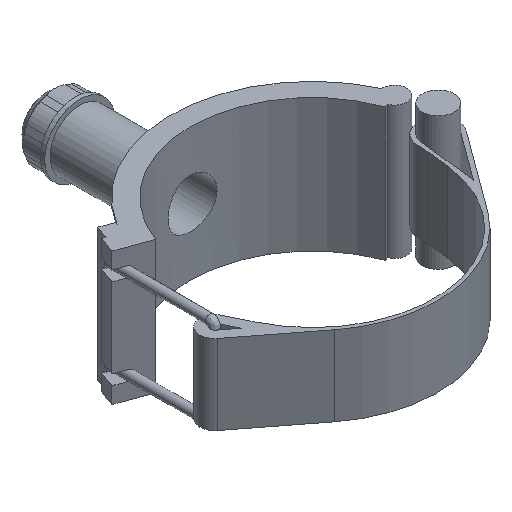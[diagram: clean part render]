
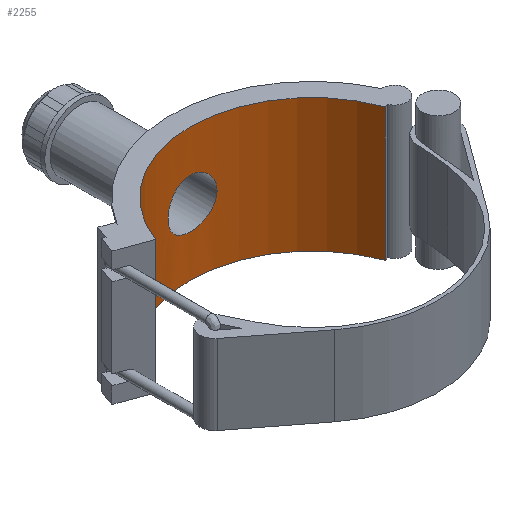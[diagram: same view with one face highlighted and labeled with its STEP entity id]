
A CAD part, isometric view. The second image highlights one B-rep face of the part: STEP entity #2255.
In plain terms, the highlighted cylindrical face has radius 161.7 mm (diameter 323.4 mm), a partial arc.
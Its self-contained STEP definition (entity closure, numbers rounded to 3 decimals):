
#49=FACE_BOUND('',#388,.T.);
#243=FACE_OUTER_BOUND('',#387,.T.);
#387=EDGE_LOOP('',(#2084,#2085,#2086,#2087));
#388=EDGE_LOOP('',(#2088,#2089));
#467=CIRCLE('',#2449,161.7);
#472=CIRCLE('',#2455,161.7);
#497=B_SPLINE_CURVE_WITH_KNOTS('',3,(#3246,#3247,#3248,#3249,#3250,#3251,
#3252,#3253,#3254,#3255,#3256,#3257,#3258,#3259,#3260,#3261,#3262,#3263,
#3264,#3265,#3266,#3267,#3268,#3269,#3270,#3271,#3272,#3273,#3274,#3275,
#3276,#3277,#3278,#3279,#3280,#3281,#3282,#3283,#3284,#3285,#3286,#3287,
#3288,#3289,#3290,#3291,#3292,#3293,#3294,#3295),.UNSPECIFIED.,.F.,.F.,
(4,2,2,2,2,2,2,2,2,2,2,2,2,2,2,2,2,2,2,2,2,2,2,2,4),(0.,0.614,
1.227,1.841,2.455,3.068,3.682,
4.296,4.909,5.523,6.136,6.75,
7.364,7.977,8.591,9.205,9.818,
10.432,11.046,11.659,12.273,12.887,
13.5,14.114,14.727),.UNSPECIFIED.);
#498=B_SPLINE_CURVE_WITH_KNOTS('',3,(#3296,#3297,#3298,#3299,#3300,#3301,
#3302,#3303,#3304,#3305,#3306,#3307,#3308,#3309,#3310,#3311,#3312,#3313),
 .UNSPECIFIED.,.F.,.F.,(4,2,2,2,2,2,2,2,4),(14.727,15.341,
15.955,16.568,17.182,17.796,18.409,
19.023,19.637),.UNSPECIFIED.);
#635=LINE('',#3884,#822);
#708=LINE('',#4115,#895);
#822=VECTOR('',#2911,10.);
#895=VECTOR('',#3104,10.);
#921=VERTEX_POINT('',#3243);
#922=VERTEX_POINT('',#3245);
#1044=VERTEX_POINT('',#3881);
#1045=VERTEX_POINT('',#3883);
#1076=VERTEX_POINT('',#4049);
#1081=VERTEX_POINT('',#4061);
#1129=EDGE_CURVE('',#922,#921,#497,.T.);
#1130=EDGE_CURVE('',#921,#922,#498,.T.);
#1312=EDGE_CURVE('',#1045,#1044,#635,.T.);
#1371=EDGE_CURVE('',#1045,#1076,#467,.T.);
#1378=EDGE_CURVE('',#1081,#1044,#472,.T.);
#1404=EDGE_CURVE('',#1081,#1076,#708,.T.);
#2084=ORIENTED_EDGE('',*,*,#1312,.T.);
#2085=ORIENTED_EDGE('',*,*,#1378,.F.);
#2086=ORIENTED_EDGE('',*,*,#1404,.T.);
#2087=ORIENTED_EDGE('',*,*,#1371,.F.);
#2088=ORIENTED_EDGE('',*,*,#1129,.T.);
#2089=ORIENTED_EDGE('',*,*,#1130,.T.);
#2130=CYLINDRICAL_SURFACE('',#2514,161.7);
#2255=ADVANCED_FACE('',(#243,#49),#2130,.F.);
#2449=AXIS2_PLACEMENT_3D('',#4050,#3021,#3022);
#2455=AXIS2_PLACEMENT_3D('',#4063,#3035,#3036);
#2514=AXIS2_PLACEMENT_3D('',#4495,#3180,#3181);
#2911=DIRECTION('',(0.,0.,-1.));
#3021=DIRECTION('center_axis',(0.,0.,-1.));
#3022=DIRECTION('ref_axis',(-1.,0.,0.));
#3035=DIRECTION('center_axis',(0.,0.,1.));
#3036=DIRECTION('ref_axis',(-1.,0.,0.));
#3104=DIRECTION('',(0.,0.,1.));
#3180=DIRECTION('center_axis',(0.,0.,1.));
#3181=DIRECTION('ref_axis',(-1.,0.,0.));
#3243=CARTESIAN_POINT('',(0.,161.7,-32.486));
#3245=CARTESIAN_POINT('',(-32.486,158.403,0.));
#3246=CARTESIAN_POINT('Ctrl Pts',(-32.486,158.403,0.));
#3247=CARTESIAN_POINT('Ctrl Pts',(-32.486,158.403,2.046));
#3248=CARTESIAN_POINT('Ctrl Pts',(-32.289,158.444,4.159));
#3249=CARTESIAN_POINT('Ctrl Pts',(-31.464,158.61,8.36));
#3250=CARTESIAN_POINT('Ctrl Pts',(-30.836,158.735,10.447));
#3251=CARTESIAN_POINT('Ctrl Pts',(-29.177,159.048,14.447));
#3252=CARTESIAN_POINT('Ctrl Pts',(-28.144,159.236,16.363));
#3253=CARTESIAN_POINT('Ctrl Pts',(-25.761,159.639,19.906));
#3254=CARTESIAN_POINT('Ctrl Pts',(-24.41,159.854,21.532));
#3255=CARTESIAN_POINT('Ctrl Pts',(-21.532,160.267,24.41));
#3256=CARTESIAN_POINT('Ctrl Pts',(-19.906,160.48,25.761));
#3257=CARTESIAN_POINT('Ctrl Pts',(-16.364,160.88,28.144));
#3258=CARTESIAN_POINT('Ctrl Pts',(-14.447,161.066,29.177));
#3259=CARTESIAN_POINT('Ctrl Pts',(-10.447,161.375,30.836));
#3260=CARTESIAN_POINT('Ctrl Pts',(-8.36,161.497,31.464));
#3261=CARTESIAN_POINT('Ctrl Pts',(-4.159,161.66,32.289));
#3262=CARTESIAN_POINT('Ctrl Pts',(-2.045,161.7,32.486));
#3263=CARTESIAN_POINT('Ctrl Pts',(2.045,161.7,32.486));
#3264=CARTESIAN_POINT('Ctrl Pts',(4.159,161.66,32.289));
#3265=CARTESIAN_POINT('Ctrl Pts',(8.36,161.497,31.464));
#3266=CARTESIAN_POINT('Ctrl Pts',(10.447,161.375,30.836));
#3267=CARTESIAN_POINT('Ctrl Pts',(14.447,161.066,29.177));
#3268=CARTESIAN_POINT('Ctrl Pts',(16.364,160.88,28.144));
#3269=CARTESIAN_POINT('Ctrl Pts',(19.906,160.48,25.761));
#3270=CARTESIAN_POINT('Ctrl Pts',(21.532,160.267,24.41));
#3271=CARTESIAN_POINT('Ctrl Pts',(24.41,159.854,21.532));
#3272=CARTESIAN_POINT('Ctrl Pts',(25.761,159.639,19.906));
#3273=CARTESIAN_POINT('Ctrl Pts',(28.144,159.236,16.363));
#3274=CARTESIAN_POINT('Ctrl Pts',(29.177,159.048,14.447));
#3275=CARTESIAN_POINT('Ctrl Pts',(30.836,158.735,10.447));
#3276=CARTESIAN_POINT('Ctrl Pts',(31.464,158.61,8.36));
#3277=CARTESIAN_POINT('Ctrl Pts',(32.289,158.444,4.159));
#3278=CARTESIAN_POINT('Ctrl Pts',(32.486,158.403,2.046));
#3279=CARTESIAN_POINT('Ctrl Pts',(32.486,158.403,-2.046));
#3280=CARTESIAN_POINT('Ctrl Pts',(32.289,158.444,-4.159));
#3281=CARTESIAN_POINT('Ctrl Pts',(31.464,158.61,-8.36));
#3282=CARTESIAN_POINT('Ctrl Pts',(30.836,158.735,-10.447));
#3283=CARTESIAN_POINT('Ctrl Pts',(29.177,159.048,-14.447));
#3284=CARTESIAN_POINT('Ctrl Pts',(28.144,159.236,-16.363));
#3285=CARTESIAN_POINT('Ctrl Pts',(25.761,159.639,-19.906));
#3286=CARTESIAN_POINT('Ctrl Pts',(24.41,159.854,-21.532));
#3287=CARTESIAN_POINT('Ctrl Pts',(21.532,160.267,-24.41));
#3288=CARTESIAN_POINT('Ctrl Pts',(19.906,160.48,-25.761));
#3289=CARTESIAN_POINT('Ctrl Pts',(16.364,160.88,-28.144));
#3290=CARTESIAN_POINT('Ctrl Pts',(14.447,161.066,-29.177));
#3291=CARTESIAN_POINT('Ctrl Pts',(10.447,161.375,-30.836));
#3292=CARTESIAN_POINT('Ctrl Pts',(8.36,161.497,-31.464));
#3293=CARTESIAN_POINT('Ctrl Pts',(4.159,161.66,-32.289));
#3294=CARTESIAN_POINT('Ctrl Pts',(2.045,161.7,-32.486));
#3295=CARTESIAN_POINT('Ctrl Pts',(0.,161.7,-32.486));
#3296=CARTESIAN_POINT('Ctrl Pts',(0.,161.7,-32.486));
#3297=CARTESIAN_POINT('Ctrl Pts',(-2.045,161.7,-32.486));
#3298=CARTESIAN_POINT('Ctrl Pts',(-4.159,161.66,-32.289));
#3299=CARTESIAN_POINT('Ctrl Pts',(-8.36,161.497,-31.464));
#3300=CARTESIAN_POINT('Ctrl Pts',(-10.447,161.375,-30.836));
#3301=CARTESIAN_POINT('Ctrl Pts',(-14.447,161.066,-29.177));
#3302=CARTESIAN_POINT('Ctrl Pts',(-16.364,160.88,-28.144));
#3303=CARTESIAN_POINT('Ctrl Pts',(-19.906,160.48,-25.761));
#3304=CARTESIAN_POINT('Ctrl Pts',(-21.532,160.267,-24.41));
#3305=CARTESIAN_POINT('Ctrl Pts',(-24.41,159.854,-21.532));
#3306=CARTESIAN_POINT('Ctrl Pts',(-25.761,159.639,-19.906));
#3307=CARTESIAN_POINT('Ctrl Pts',(-28.144,159.236,-16.363));
#3308=CARTESIAN_POINT('Ctrl Pts',(-29.177,159.048,-14.447));
#3309=CARTESIAN_POINT('Ctrl Pts',(-30.836,158.735,-10.447));
#3310=CARTESIAN_POINT('Ctrl Pts',(-31.464,158.61,-8.36));
#3311=CARTESIAN_POINT('Ctrl Pts',(-32.289,158.444,-4.159));
#3312=CARTESIAN_POINT('Ctrl Pts',(-32.486,158.403,-2.046));
#3313=CARTESIAN_POINT('Ctrl Pts',(-32.486,158.403,0.));
#3881=CARTESIAN_POINT('',(-151.948,55.305,-88.011));
#3883=CARTESIAN_POINT('',(-151.948,55.305,88.011));
#3884=CARTESIAN_POINT('',(-151.948,55.305,0.));
#4049=CARTESIAN_POINT('',(151.948,55.305,88.011));
#4050=CARTESIAN_POINT('Origin',(0.,0.,88.011));
#4061=CARTESIAN_POINT('',(151.948,55.305,-88.011));
#4063=CARTESIAN_POINT('Origin',(0.,0.,-88.011));
#4115=CARTESIAN_POINT('',(151.948,55.305,0.));
#4495=CARTESIAN_POINT('Origin',(0.,0.,0.));
